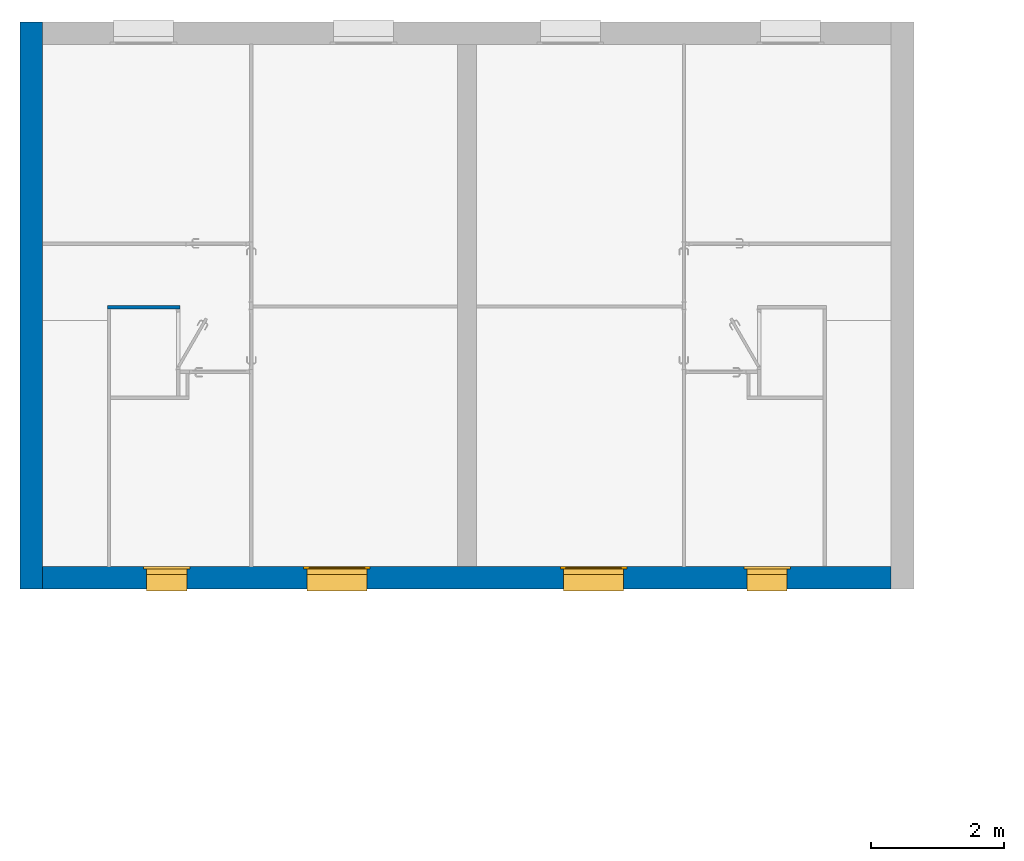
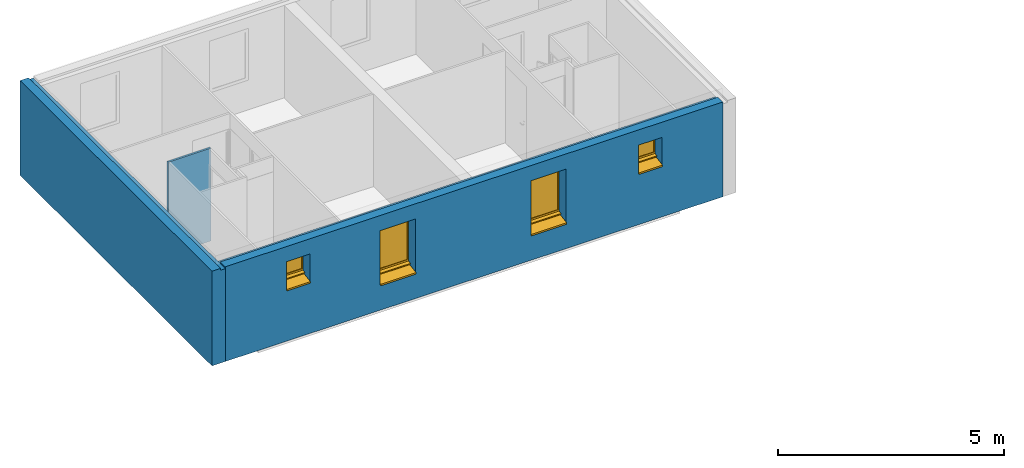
# One storey, part 2 of 13: 4 windows, 3 walls, 4 openings.
"""IFC2X3 building model written with IfcOpenShell, lengths in metres."""

from ifc_helpers import new_model, entity, si_unit, converted_unit, derived_unit, direction, frame, frame_2d, origin, origin_2d_with_axis, place, context, subcontext, project, spatial, polyline, rectangle, outline, extrude, clip, halfspace, bounded_halfspace, faceted_brep, source, transform, mapped, material, material_list, layer, layer_set, layer_usage, type_object, type_shapes, element, fill, save


model = new_model("IFC2X3")

# Units and contexts
model_context = context("Model", 3, precision=1e-05, world=origin(), true_north=direction((6.12303176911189e-17, 1.0)))
context_of_model = context(None, 3, precision=1e-05, world=origin(), true_north=direction((6.12303176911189e-17, 1.0)))
body_context = subcontext(model_context, "Body", "Model", "MODEL_VIEW")
ifc_project = project(units=[si_unit("LENGTHUNIT", "METRE"), si_unit("AREAUNIT", "SQUARE_METRE"), si_unit("VOLUMEUNIT", "CUBIC_METRE"), converted_unit("PLANEANGLEUNIT", "DEGREE", entity("IfcRatioMeasure", 0.0174532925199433), si_unit("PLANEANGLEUNIT", "RADIAN"), dimensions=[0, 0, 0, 0, 0, 0, 0]), si_unit("MASSUNIT", "GRAM", prefix="KILO"), si_unit("TIMEUNIT", "SECOND"), si_unit("FREQUENCYUNIT", "HERTZ"), si_unit("THERMODYNAMICTEMPERATUREUNIT", "DEGREE_CELSIUS"), derived_unit("THERMALTRANSMITTANCEUNIT", [(si_unit("MASSUNIT", "GRAM", prefix="KILO"), 1), (si_unit("THERMODYNAMICTEMPERATUREUNIT", "KELVIN"), -1), (si_unit("TIMEUNIT", "SECOND"), -3)]), derived_unit("VOLUMETRICFLOWRATEUNIT", [(si_unit("LENGTHUNIT", "METRE"), 3), (si_unit("TIMEUNIT", "SECOND"), -1)]), si_unit("ELECTRICCURRENTUNIT", "AMPERE"), si_unit("ELECTRICVOLTAGEUNIT", "VOLT"), si_unit("POWERUNIT", "WATT"), si_unit("FORCEUNIT", "NEWTON", prefix="KILO"), si_unit("ILLUMINANCEUNIT", "LUX"), si_unit("LUMINOUSFLUXUNIT", "LUMEN"), si_unit("LUMINOUSINTENSITYUNIT", "CANDELA"), derived_unit("USERDEFINED", [(si_unit("MASSUNIT", "GRAM", prefix="KILO"), -1), (si_unit("LENGTHUNIT", "METRE"), -2), (si_unit("TIMEUNIT", "SECOND"), 3), (si_unit("LUMINOUSFLUXUNIT", "LUMEN"), 1)]), derived_unit("LINEARVELOCITYUNIT", [(si_unit("LENGTHUNIT", "METRE"), 1), (si_unit("TIMEUNIT", "SECOND"), -1)]), si_unit("PRESSUREUNIT", "PASCAL"), derived_unit("USERDEFINED", [(si_unit("LENGTHUNIT", "METRE"), -2), (si_unit("MASSUNIT", "GRAM", prefix="KILO"), 1), (si_unit("TIMEUNIT", "SECOND"), -2)])], contexts=[model_context, context_of_model])

# Site, building, storey
site_placement = place(None, origin())
site = spatial("IfcSite", under=ifc_project, at=site_placement, Name="Surface", CompositionType="ELEMENT")
building_placement = place(site_placement, origin())
building = spatial("IfcBuilding", under=site, at=building_placement, CompositionType="ELEMENT")
storey_placement = place(building_placement, frame((0.0, 0.0, 2.74)))
storey = spatial("IfcBuildingStorey", under=building, at=storey_placement, Name="Plan étage", CompositionType="ELEMENT", Elevation=2.74)

# Walls
ifc_material_1 = material(Name="Maçonnerie - Isolant(1)")
ifc_layer_1 = layer(ifc_material_1, 0.05)
ifc_layer_set_1 = layer_set([ifc_layer_1], Name="Mur de base:Int. plâtre 50 mm")
ifc_layer_usage_1 = layer_usage(ifc_layer_set_1, "AXIS2", "NEGATIVE", 0.025)
wall_type_1 = type_object("IfcWallType", Name="Mur de base:Int. plâtre 50 mm", PredefinedType="STANDARD", material=ifc_layer_set_1)
wall_1_placement = place(storey_placement, frame((-10.3260888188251, 1.40925578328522, -0.00999999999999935)))
element("IfcWallStandardCase", 1, at=wall_1_placement, inside=storey, type_object=wall_type_1, material=ifc_layer_usage_1, Name="Mur de base:Int. plâtre 50 mm", ObjectType="Mur de base:Int. plâtre 50 mm", context=body_context, shape_type="SweptSolid", body=[
    extrude(rectangle(XDim=1.08499999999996, YDim=0.05, at=frame_2d((0.542499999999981, 0.0), x_axis=(-1.0, 0.0))), origin(), (0.0, 0.0, 1.0), 2.51),
])
ifc_material_2 = material(Name="Maçonnerie - Enduit")
ifc_layer_2 = layer(ifc_material_2, 0.02)
ifc_material_3 = material(Name="Maçonnerie - Parpaing")
ifc_layer_3 = layer(ifc_material_3, 0.2)
ifc_material_4 = material(Name="Maçonnerie - Isolant")
ifc_layer_4 = layer(ifc_material_4, 0.11)
ifc_material_5 = material(Name="Maçonnerie - Isolant 1")
ifc_layer_5 = layer(ifc_material_5, 0.01)
ifc_layer_set_2 = layer_set([ifc_layer_2, ifc_layer_3, ifc_layer_4, ifc_layer_5], Name="Mur de base:Mur de base Ext. Parpaing 20 + Isolant 12")
ifc_layer_usage_2 = layer_usage(ifc_layer_set_2, "AXIS2", "NEGATIVE", 0.17)
wall_type_2 = type_object("IfcWallType", Name="Mur de base:Mur de base Ext. Parpaing 20 + Isolant 12", PredefinedType="STANDARD", material=ifc_layer_set_2)
wall_2_placement = place(storey_placement, frame((-11.4660888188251, -2.81574421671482, 0.0), z_axis=(0.0, 0.0, 1.0), x_axis=(0.0, 1.0, 0.0)))
element("IfcWallStandardCase", 2, at=wall_2_placement, inside=storey, type_object=wall_type_2, material=ifc_layer_usage_2, Name="Mur de base:Mur de base Ext. Parpaing 20 + Isolant 12", ObjectType="Mur de base:Mur de base Ext. Parpaing 20 + Isolant 12", context=body_context, shape_type="Clipping", body=[
    clip(extrude(rectangle(XDim=8.50000000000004, YDim=0.340000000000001, at=frame_2d((4.25000000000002, 0.0), x_axis=(-1.0, 0.0))), origin(), (0.0, 0.0, 1.0), 2.56), bounded_halfspace(frame((0.0, -0.17, 2.51), z_axis=(0.0, 0.0, 1.0), x_axis=(0.0, -1.0, 0.0)), False, frame((0.0, -0.17, 2.51)), polyline([(0.0, 0.0), (8.50000000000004, 0.0), (8.50000000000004, 0.120000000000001), (0.0, 0.120000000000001), (0.0, 0.0)]))),
])

# Wall, openings, windows
ifc_layer_usage_3 = layer_usage(ifc_layer_set_2, "AXIS2", "NEGATIVE", 0.17)
wall_3_placement = place(storey_placement, frame((1.42391118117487, -2.64574421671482, 0.0), z_axis=(0.0, 0.0, 1.0), x_axis=(-1.0, 0.0, 0.0)))
wall_3 = element("IfcWallStandardCase", 3, at=wall_3_placement, inside=storey, type_object=wall_type_2, material=ifc_layer_usage_3, Name="Mur de base:Mur de base Ext. Parpaing 20 + Isolant 12", ObjectType="Mur de base:Mur de base Ext. Parpaing 20 + Isolant 12", context=body_context, shape_type="Clipping", body=[
    clip(clip(extrude(rectangle(XDim=12.72, YDim=0.34, at=frame_2d((6.35999999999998, 0.0), x_axis=(-1.0, 0.0))), origin(), (0.0, 0.0, 1.0), 2.56), bounded_halfspace(frame((0.0, -0.17, 2.5), z_axis=(0.0, 0.0, 1.0), x_axis=(-1.0, 0.0, 0.0)), False, frame((0.0, -0.17, 2.5)), polyline([(0.0, 0.0), (6.22, 0.0), (6.5, 0.0), (12.72, 0.0), (12.72, 0.12), (0.0, 0.12), (0.0, 0.0)]))), halfspace(origin(), True)),
])
opening_1_placement = place(wall_3_placement, frame((2.20999999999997, 0.689999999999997, 1.38057636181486), z_axis=(0.0, 0.0, 1.0), x_axis=(-1.0, 0.0, 0.0)))
opening_1 = element("IfcOpeningElement", 4, at=opening_1_placement, cuts=wall_3, Name="Mur de base:Mur de base Ext. Parpaing 20 + Isolant 12", ObjectType="Opening", context=body_context, shape_type="Brep", body=[
    faceted_brep([(0.0499999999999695, 1.35, 0.769423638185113), (0.649999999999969, 1.35, 0.769423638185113), (0.649999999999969, 1.35, 0.119423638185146), (0.0499999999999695, 1.35, 0.119423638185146), (0.0499999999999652, 0.0, 0.769423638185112), (0.0499999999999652, 0.0, 0.0), (0.649999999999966, 0.0, 0.0), (0.649999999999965, 0.0, 0.769423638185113), (0.0499999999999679, 0.859999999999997, 0.769423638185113), (0.649999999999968, 0.859999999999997, 0.769423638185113), (0.649999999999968, 0.859999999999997, 0.119423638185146), (0.699999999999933, 0.859999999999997, 0.119423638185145), (0.699999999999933, 0.819999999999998, 0.119423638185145), (0.649999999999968, 0.819999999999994, 0.119423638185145), (0.0499999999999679, 0.819999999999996, 0.119423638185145), (0.0, 0.819999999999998, 0.119423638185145), (0.0, 0.859999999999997, 0.119423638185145), (0.0499999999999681, 0.859999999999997, 0.119423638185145), (0.0499999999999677, 0.769999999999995, 0.0), (0.649999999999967, 0.769999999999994, 0.0), (0.0499999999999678, 0.819999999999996, 0.0415343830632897), (0.649999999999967, 0.819999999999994, 0.0415343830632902), (0.0, 0.859999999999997, 0.81942363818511), (0.699999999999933, 0.859999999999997, 0.81942363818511), (0.699999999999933, 0.819999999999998, 0.81942363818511), (0.0, 0.819999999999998, 0.81942363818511), (0.0499999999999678, 0.819999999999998, 0.769423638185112), (0.649999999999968, 0.819999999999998, 0.769423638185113)], [[[0, 1, 2, 3]], [[4, 5, 6, 7]], [[0, 8, 9, 1]], [[1, 9, 10, 2]], [[2, 10, 11, 12, 13, 14, 15, 16, 17, 3]], [[3, 17, 8, 0]], [[6, 5, 18, 19]], [[19, 18, 20, 21]], [[21, 20, 14, 13]], [[11, 10, 9, 8, 17, 16, 22, 23]], [[11, 23, 24, 12]], [[24, 25, 15, 14, 26, 27, 13, 12]], [[22, 25, 24, 23]], [[16, 15, 25, 22]], [[5, 4, 26, 14, 20, 18]], [[13, 27, 7, 6, 19, 21]], [[7, 27, 26, 4]]]),
])
opening_2_placement = place(wall_3_placement, frame((4.95999999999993, 0.689999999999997, 0.680576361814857), z_axis=(0.0, 0.0, 1.0), x_axis=(-1.0, 0.0, 0.0)))
opening_2 = element("IfcOpeningElement", 5, at=opening_2_placement, cuts=wall_3, Name="Mur de base:Mur de base Ext. Parpaing 20 + Isolant 12", ObjectType="Opening", context=body_context, shape_type="Brep", body=[
    faceted_brep([(0.049999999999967, 1.35, 1.46942363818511), (0.949999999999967, 1.35, 1.46942363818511), (0.949999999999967, 1.35, 0.119423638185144), (0.049999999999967, 1.35, 0.119423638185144), (0.0499999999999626, 0.0, 1.46942363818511), (0.0499999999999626, 0.0, 0.0), (0.949999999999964, 0.0, 0.0), (0.949999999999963, 0.0, 1.46942363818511), (0.0499999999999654, 0.859999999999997, 1.46942363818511), (0.949999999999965, 0.859999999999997, 1.46942363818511), (0.949999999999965, 0.859999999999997, 0.119423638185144), (1.0, 0.859999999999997, 0.119423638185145), (1.0, 0.819999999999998, 0.119423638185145), (0.949999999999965, 0.819999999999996, 0.119423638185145), (0.0499999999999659, 0.819999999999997, 0.119423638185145), (0.0, 0.819999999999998, 0.119423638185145), (0.0, 0.859999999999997, 0.119423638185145), (0.0499999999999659, 0.859999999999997, 0.119423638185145), (0.0499999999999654, 0.769999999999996, 0.0), (0.949999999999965, 0.769999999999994, 0.0), (0.0499999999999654, 0.819999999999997, 0.0415343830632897), (0.949999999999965, 0.819999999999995, 0.0415343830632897), (0.0, 0.859999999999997, 1.51942363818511), (1.0, 0.859999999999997, 1.51942363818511), (1.0, 0.819999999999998, 1.51942363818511), (0.0, 0.819999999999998, 1.51942363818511), (0.0499999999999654, 0.819999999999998, 1.46942363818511), (0.949999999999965, 0.819999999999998, 1.46942363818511)], [[[0, 1, 2, 3]], [[4, 5, 6, 7]], [[0, 8, 9, 1]], [[1, 9, 10, 2]], [[2, 10, 11, 12, 13, 14, 15, 16, 17, 3]], [[3, 17, 8, 0]], [[6, 5, 18, 19]], [[19, 18, 20, 21]], [[21, 20, 14, 13]], [[11, 10, 9, 8, 17, 16, 22, 23]], [[11, 23, 24, 12]], [[24, 25, 15, 14, 26, 27, 13, 12]], [[22, 25, 24, 23]], [[16, 15, 25, 22]], [[5, 4, 26, 14, 20, 18]], [[13, 27, 7, 6, 19, 21]], [[7, 27, 26, 4]]]),
])
opening_3_placement = place(wall_3_placement, frame((8.80999999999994, 0.689999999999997, 0.680576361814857), z_axis=(0.0, 0.0, 1.0), x_axis=(-1.0, 0.0, 0.0)))
opening_3 = element("IfcOpeningElement", 6, at=opening_3_placement, cuts=wall_3, Name="Mur de base:Mur de base Ext. Parpaing 20 + Isolant 12", ObjectType="Opening", context=body_context, shape_type="Brep", body=[
    faceted_brep([(0.0499999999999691, 1.35, 1.46942363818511), (0.949999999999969, 1.35, 1.46942363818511), (0.949999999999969, 1.35, 0.119423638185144), (0.0499999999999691, 1.35, 0.119423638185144), (0.0499999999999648, 0.0, 1.46942363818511), (0.0499999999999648, 0.0, 0.0), (0.949999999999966, 0.0, 0.0), (0.949999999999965, 0.0, 1.46942363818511), (0.0499999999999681, 0.859999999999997, 1.46942363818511), (0.949999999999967, 0.859999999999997, 1.46942363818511), (0.949999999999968, 0.859999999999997, 0.119423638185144), (1.0, 0.859999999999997, 0.119423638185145), (1.0, 0.819999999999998, 0.119423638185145), (0.949999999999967, 0.819999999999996, 0.119423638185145), (0.0499999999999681, 0.819999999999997, 0.119423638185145), (0.0, 0.819999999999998, 0.119423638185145), (0.0, 0.859999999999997, 0.119423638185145), (0.0499999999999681, 0.859999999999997, 0.119423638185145), (0.049999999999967, 0.769999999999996, 0.0), (0.949999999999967, 0.769999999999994, 0.0), (0.049999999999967, 0.819999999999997, 0.0415343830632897), (0.949999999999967, 0.819999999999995, 0.0415343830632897), (0.0, 0.859999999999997, 1.51942363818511), (1.0, 0.859999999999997, 1.51942363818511), (1.0, 0.819999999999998, 1.51942363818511), (0.0, 0.819999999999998, 1.51942363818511), (0.049999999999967, 0.819999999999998, 1.46942363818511), (0.949999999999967, 0.819999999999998, 1.46942363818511)], [[[0, 1, 2, 3]], [[4, 5, 6, 7]], [[0, 8, 9, 1]], [[1, 9, 10, 2]], [[2, 10, 11, 12, 13, 14, 15, 16, 17, 3]], [[3, 17, 8, 0]], [[6, 5, 18, 19]], [[19, 18, 20, 21]], [[21, 20, 14, 13]], [[11, 10, 9, 8, 17, 16, 22, 23]], [[11, 23, 24, 12]], [[24, 25, 15, 14, 26, 27, 13, 12]], [[22, 25, 24, 23]], [[16, 15, 25, 22]], [[5, 4, 26, 14, 20, 18]], [[13, 27, 7, 6, 19, 21]], [[7, 27, 26, 4]]]),
])
opening_4_placement = place(wall_3_placement, frame((11.2099999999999, 0.689999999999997, 1.38057636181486), z_axis=(0.0, 0.0, 1.0), x_axis=(-1.0, 0.0, 0.0)))
opening_4 = element("IfcOpeningElement", 7, at=opening_4_placement, cuts=wall_3, Name="Mur de base:Mur de base Ext. Parpaing 20 + Isolant 12", ObjectType="Opening", context=body_context, shape_type="Brep", body=[
    faceted_brep([(0.0499999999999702, 1.35, 0.769423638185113), (0.64999999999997, 1.35, 0.769423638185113), (0.64999999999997, 1.35, 0.119423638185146), (0.0499999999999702, 1.35, 0.119423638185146), (0.0499999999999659, 0.0, 0.769423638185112), (0.0499999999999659, 0.0, 0.0), (0.649999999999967, 0.0, 0.0), (0.649999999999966, 0.0, 0.769423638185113), (0.0499999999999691, 0.859999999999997, 0.769423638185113), (0.649999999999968, 0.859999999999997, 0.769423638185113), (0.649999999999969, 0.859999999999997, 0.119423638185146), (0.699999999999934, 0.859999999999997, 0.119423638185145), (0.699999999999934, 0.819999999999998, 0.119423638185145), (0.649999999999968, 0.819999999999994, 0.119423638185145), (0.0499999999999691, 0.819999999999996, 0.119423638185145), (0.0, 0.819999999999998, 0.119423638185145), (0.0, 0.859999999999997, 0.119423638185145), (0.0499999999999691, 0.859999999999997, 0.119423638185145), (0.0499999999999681, 0.769999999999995, 0.0), (0.649999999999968, 0.769999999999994, 0.0), (0.0499999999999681, 0.819999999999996, 0.0415343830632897), (0.649999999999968, 0.819999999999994, 0.0415343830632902), (0.0, 0.859999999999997, 0.81942363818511), (0.699999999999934, 0.859999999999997, 0.81942363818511), (0.699999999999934, 0.819999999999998, 0.81942363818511), (0.0, 0.819999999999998, 0.81942363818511), (0.0499999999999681, 0.819999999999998, 0.769423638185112), (0.649999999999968, 0.819999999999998, 0.769423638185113)], [[[0, 1, 2, 3]], [[4, 5, 6, 7]], [[0, 8, 9, 1]], [[1, 9, 10, 2]], [[2, 10, 11, 12, 13, 14, 15, 16, 17, 3]], [[3, 17, 8, 0]], [[6, 5, 18, 19]], [[19, 18, 20, 21]], [[21, 20, 14, 13]], [[11, 10, 9, 8, 17, 16, 22, 23]], [[11, 23, 24, 12]], [[24, 25, 15, 14, 26, 27, 13, 12]], [[22, 25, 24, 23]], [[16, 15, 25, 22]], [[5, 4, 26, 14, 20, 18]], [[13, 27, 7, 6, 19, 21]], [[7, 27, 26, 4]]]),
])
ifc_material_6 = material(Name="Appui")
ifc_material_7 = material(Name="Huisserie")
ifc_material_8 = material(Name="Verre")
ifc_material_list_1 = material_list([ifc_material_6, ifc_material_7, ifc_material_8])
ifc_material_list_2 = material_list([ifc_material_6, ifc_material_7, ifc_material_8])
window_style_1 = type_object("IfcWindowStyle", Name="60x65", ConstructionType="NOTDEFINED", OperationType="NOTDEFINED", ParameterTakesPrecedence=False, Sizeable=False, material=ifc_material_list_2)
shared_shape_1 = source(origin(), body_context, "Body", "SweptSolid", [
    extrude(outline(polyline([(0.0657142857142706, -0.0614771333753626), (0.115714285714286, -0.0614771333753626), (0.115714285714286, 0.0164121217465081), (0.0657142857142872, 0.0579465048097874), (-0.2142857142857, 0.0579465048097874), (-0.2142857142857, 0.0182470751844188), (0.0657142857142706, -0.0275979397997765), (0.0657142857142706, -0.0614771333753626)])), frame((0.0499999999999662, -0.704285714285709, 0.0579465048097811), z_axis=(1.0, 0.0, 0.0), x_axis=(0.0, -1.0, 0.0)), (0.0, 0.0, 1.0), 0.6),
    extrude(outline(polyline([(-0.0381047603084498, -0.0131276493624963), (0.0436772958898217, -0.0131276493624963), (0.0363421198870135, 0.0214324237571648), (-0.0419146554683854, 0.00482287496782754), (-0.0381047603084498, -0.0131276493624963)])), frame((0.0499999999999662, -0.779999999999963, 0.132843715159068), z_axis=(1.0, 0.0, 0.0), x_axis=(0.0, -0.978209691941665, 0.207619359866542)), (0.0, 0.0, 1.0), 0.6),
    extrude(outline(polyline([(-0.349971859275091, -0.349999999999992), (0.349971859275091, -0.349999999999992), (0.349971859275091, 0.349999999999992), (-0.349971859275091, 0.349999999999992), (-0.349971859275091, -0.349999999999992)]), holes=[polyline([(0.26997185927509, -0.269999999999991), (-0.26997185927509, -0.269999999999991), (-0.269971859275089, 0.269999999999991), (0.26997185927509, 0.26999999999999), (0.26997185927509, -0.269999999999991)])]), frame((0.349999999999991, -0.859999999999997, 0.469395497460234), z_axis=(0.0, 1.0, 0.0), x_axis=(0.0, 0.0, 1.0)), (0.0, 0.0, 1.0), 0.0399999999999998),
    extrude(rectangle(XDim=0.0100226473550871, YDim=0.539999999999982, at=frame_2d((6.76542155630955e-17, 0.0), x_axis=(1.0, 0.0))), frame((0.349999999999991, -0.839989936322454, 0.199423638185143), z_axis=(0.0, 0.0, 1.0), x_axis=(0.0, 1.0, 0.0)), (0.0, 0.0, 1.0), 0.539943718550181),
])
type_shapes(window_style_1, [shared_shape_1])
window_1_placement = place(opening_1_placement, frame((0.699999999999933, 0.0, 0.0), z_axis=(0.0, 0.0, 1.0), x_axis=(-1.0, 0.0, 0.0)))
window_1 = element("IfcWindow", 8, at=window_1_placement, inside=storey, type_object=window_style_1, material=ifc_material_list_1, Name="FR_1  Vantail Appui Béton:60x65", ObjectType="60x65", OverallHeight=0.959972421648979, OverallWidth=0.699999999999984, context=body_context, shape_type="MappedRepresentation", body=[
    mapped(shared_shape_1, transform((0.0, 0.0, 0.0), scale=1.0)),
])
fill(opening_1, window_1)
ifc_material_list_3 = material_list([ifc_material_6, ifc_material_7, ifc_material_8])
window_2_placement = place(opening_4_placement, frame((0.699999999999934, 0.0, 0.0), z_axis=(0.0, 0.0, 1.0), x_axis=(-1.0, 0.0, 0.0)))
window_2 = element("IfcWindow", 9, at=window_2_placement, inside=storey, type_object=window_style_1, material=ifc_material_list_3, Name="FR_1  Vantail Appui Béton:60x65", ObjectType="60x65", OverallHeight=0.959972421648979, OverallWidth=0.699999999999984, context=body_context, shape_type="MappedRepresentation", body=[
    mapped(shared_shape_1, transform((0.0, 0.0, 0.0), scale=1.0)),
])
fill(opening_4, window_2)
ifc_material_list_4 = material_list([ifc_material_6, ifc_material_7, ifc_material_8])
ifc_material_list_5 = material_list([ifc_material_6, ifc_material_7, ifc_material_8])
window_style_2 = type_object("IfcWindowStyle", Name="90x135", ConstructionType="NOTDEFINED", OperationType="NOTDEFINED", ParameterTakesPrecedence=False, Sizeable=False, material=ifc_material_list_5)
shared_shape_2 = source(origin(), body_context, "Body", "SweptSolid", [
    extrude(outline(polyline([(0.0657142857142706, -0.0614771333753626), (0.115714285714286, -0.0614771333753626), (0.115714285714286, 0.0164121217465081), (0.0657142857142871, 0.0579465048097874), (-0.2142857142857, 0.0579465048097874), (-0.2142857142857, 0.0182470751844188), (0.0657142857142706, -0.0275979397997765), (0.0657142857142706, -0.0614771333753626)])), frame((0.0499999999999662, -0.704285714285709, 0.0579465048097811), z_axis=(1.0, 0.0, 0.0), x_axis=(0.0, -1.0, 0.0)), (0.0, 0.0, 1.0), 0.9),
    extrude(outline(polyline([(-0.0381047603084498, -0.0131276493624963), (0.0436772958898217, -0.0131276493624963), (0.0363421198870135, 0.0214324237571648), (-0.0419146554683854, 0.00482287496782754), (-0.0381047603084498, -0.0131276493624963)])), frame((0.0499999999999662, -0.779999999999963, 0.132843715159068), z_axis=(1.0, 0.0, 0.0), x_axis=(0.0, -0.978209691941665, 0.207619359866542)), (0.0, 0.0, 1.0), 0.899999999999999),
    extrude(outline(polyline([(-0.699971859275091, -0.499999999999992), (0.69997185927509, -0.499999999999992), (0.69997185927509, 0.499999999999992), (-0.699971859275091, 0.499999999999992), (-0.699971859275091, -0.499999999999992)]), holes=[polyline([(0.619971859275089, -0.419999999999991), (-0.61997185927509, -0.419999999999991), (-0.61997185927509, 0.419999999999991), (0.619971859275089, 0.419999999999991), (0.619971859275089, -0.419999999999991)])]), frame((0.499999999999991, -0.859999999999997, 0.819395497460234), z_axis=(0.0, 1.0, 0.0), x_axis=(0.0, 0.0, 1.0)), (0.0, 0.0, 1.0), 0.0399999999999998),
    extrude(rectangle(XDim=0.0100226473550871, YDim=0.839999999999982, at=origin_2d_with_axis()), frame((0.499999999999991, -0.839989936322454, 0.199423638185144), z_axis=(0.0, 0.0, 1.0), x_axis=(0.0, 1.0, 0.0)), (0.0, 0.0, 1.0), 1.23994371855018),
])
type_shapes(window_style_2, [shared_shape_2])
window_3_placement = place(opening_2_placement, frame((1.0, 0.0, 0.0), z_axis=(0.0, 0.0, 1.0), x_axis=(-1.0, 0.0, 0.0)))
window_3 = element("IfcWindow", 10, at=window_3_placement, inside=storey, type_object=window_style_2, material=ifc_material_list_4, Name="FR_1  Vantail Appui Béton:90x135", ObjectType="90x135", OverallHeight=1.65997242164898, OverallWidth=0.999999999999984, context=body_context, shape_type="MappedRepresentation", body=[
    mapped(shared_shape_2, transform((0.0, 0.0, 0.0), scale=1.0)),
])
fill(opening_2, window_3)
ifc_material_list_6 = material_list([ifc_material_6, ifc_material_7, ifc_material_8])
window_4_placement = place(opening_3_placement, frame((1.0, 0.0, 0.0), z_axis=(0.0, 0.0, 1.0), x_axis=(-1.0, 0.0, 0.0)))
window_4 = element("IfcWindow", 11, at=window_4_placement, inside=storey, type_object=window_style_2, material=ifc_material_list_6, Name="FR_1  Vantail Appui Béton:90x135", ObjectType="90x135", OverallHeight=1.65997242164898, OverallWidth=0.999999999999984, context=body_context, shape_type="MappedRepresentation", body=[
    mapped(shared_shape_2, transform((0.0, 0.0, 0.0), scale=1.0)),
])
fill(opening_3, window_4)

save(model, "model.ifc")
